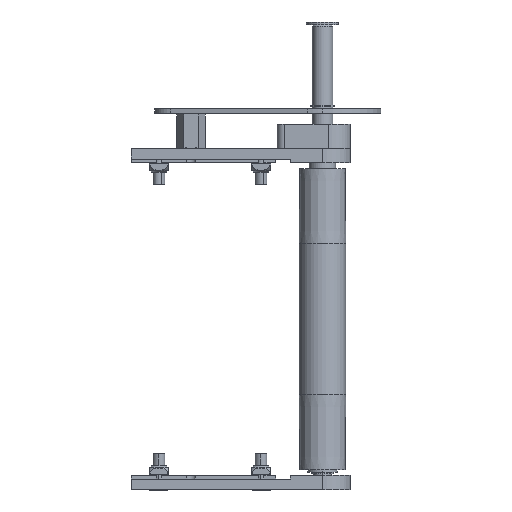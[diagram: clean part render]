
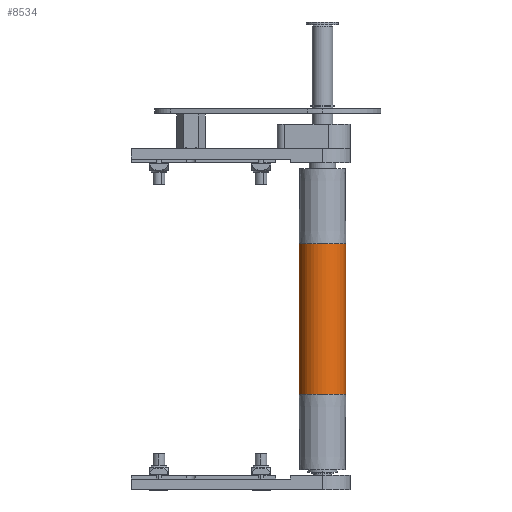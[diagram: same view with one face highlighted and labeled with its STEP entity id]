
A CAD part, front view. The second image highlights one B-rep face of the part: STEP entity #8534.
In plain terms, the highlighted cylindrical face has radius 16 mm (diameter 32 mm), a partial arc.
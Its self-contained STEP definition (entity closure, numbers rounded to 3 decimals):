
#691 = CARTESIAN_POINT ( 'NONE',  ( 253., 0., 16. ) ) ;
#1291 = VERTEX_POINT ( 'NONE', #11197 ) ;
#1317 = CYLINDRICAL_SURFACE ( 'NONE', #9049, 16. ) ;
#1538 = VECTOR ( 'NONE', #14352, 1000. ) ;
#2166 = EDGE_LOOP ( 'NONE', ( #17337, #16631, #5982, #13566 ) ) ;
#2984 = LINE ( 'NONE', #6359, #1538 ) ;
#4183 = CIRCLE ( 'NONE', #13964, 16. ) ;
#5010 = DIRECTION ( 'NONE',  ( 0., 0., 1. ) ) ;
#5324 = DIRECTION ( 'NONE',  ( 0., 0., 1. ) ) ;
#5982 = ORIENTED_EDGE ( 'NONE', *, *, #13946, .T. ) ;
#6359 = CARTESIAN_POINT ( 'NONE',  ( 0., 0., 16. ) ) ;
#6817 = VERTEX_POINT ( 'NONE', #13568 ) ;
#7246 = VERTEX_POINT ( 'NONE', #691 ) ;
#7330 = CARTESIAN_POINT ( 'NONE',  ( 253., 0., -16. ) ) ;
#7795 = AXIS2_PLACEMENT_3D ( 'NONE', #10559, #7877, #5010 ) ;
#7877 = DIRECTION ( 'NONE',  ( -1., 0., 0. ) ) ;
#8061 = CARTESIAN_POINT ( 'NONE',  ( 253., 0., 0. ) ) ;
#8534 = ADVANCED_FACE ( 'NONE', ( #12230 ), #1317, .T. ) ;
#8604 = DIRECTION ( 'NONE',  ( 0., 0., -1. ) ) ;
#8624 = EDGE_CURVE ( 'NONE', #6817, #7246, #2984, .T. ) ;
#9049 = AXIS2_PLACEMENT_3D ( 'NONE', #9715, #16639, #8604 ) ;
#9632 = VERTEX_POINT ( 'NONE', #7330 ) ;
#9715 = CARTESIAN_POINT ( 'NONE',  ( 0., 0., 0. ) ) ;
#10278 = CIRCLE ( 'NONE', #7795, 16. ) ;
#10559 = CARTESIAN_POINT ( 'NONE',  ( 150., 0., 0. ) ) ;
#11030 = EDGE_CURVE ( 'NONE', #1291, #6817, #10278, .T. ) ;
#11197 = CARTESIAN_POINT ( 'NONE',  ( 150., 0., -16. ) ) ;
#11969 = CARTESIAN_POINT ( 'NONE',  ( 0., 0., -16. ) ) ;
#12230 = FACE_OUTER_BOUND ( 'NONE', #2166, .T. ) ;
#12400 = VECTOR ( 'NONE', #14457, 1000. ) ;
#13566 = ORIENTED_EDGE ( 'NONE', *, *, #17293, .T. ) ;
#13568 = CARTESIAN_POINT ( 'NONE',  ( 150., 0., 16. ) ) ;
#13946 = EDGE_CURVE ( 'NONE', #1291, #9632, #15758, .T. ) ;
#13964 = AXIS2_PLACEMENT_3D ( 'NONE', #8061, #16051, #5324 ) ;
#14352 = DIRECTION ( 'NONE',  ( 1., 0., 0. ) ) ;
#14457 = DIRECTION ( 'NONE',  ( 1., 0., 0. ) ) ;
#15758 = LINE ( 'NONE', #11969, #12400 ) ;
#16051 = DIRECTION ( 'NONE',  ( -1., 0., 0. ) ) ;
#16631 = ORIENTED_EDGE ( 'NONE', *, *, #11030, .F. ) ;
#16639 = DIRECTION ( 'NONE',  ( 1., 0., 0. ) ) ;
#17293 = EDGE_CURVE ( 'NONE', #9632, #7246, #4183, .T. ) ;
#17337 = ORIENTED_EDGE ( 'NONE', *, *, #8624, .F. ) ;
